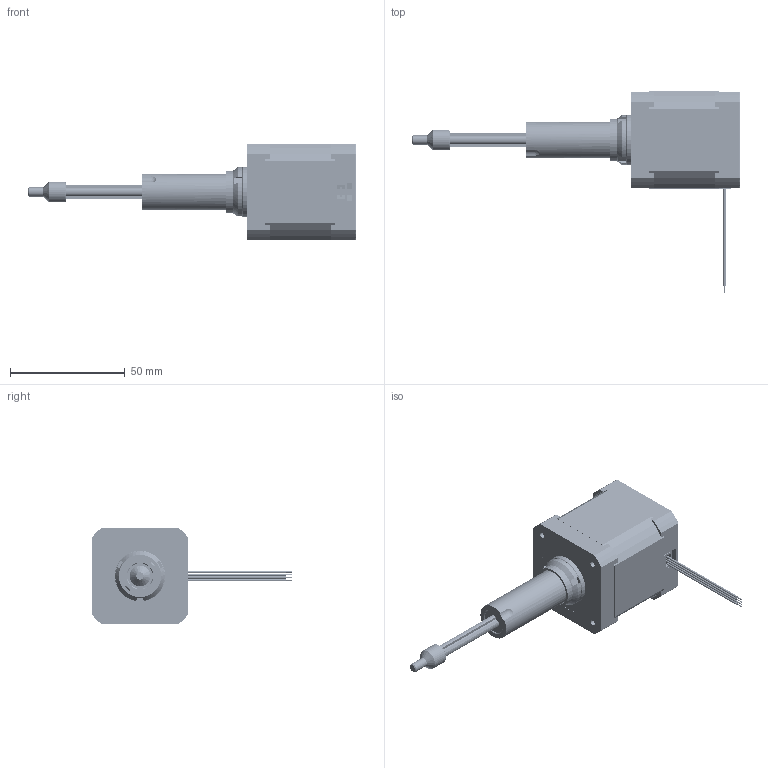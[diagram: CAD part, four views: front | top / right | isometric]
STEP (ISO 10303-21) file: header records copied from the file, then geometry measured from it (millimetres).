
FILE_DESCRIPTION((''),'2;1');
FILE_NAME('42CC4X-X-XXX-XXX_ASM','2023-03-24T',('guangyan.zhou'),(''),'CREO PARAMETRIC BY PTC INC, 2017300','CREO PARAMETRIC BY PTC INC, 2017300','');
FILE_SCHEMA(('CONFIG_CONTROL_DESIGN'));
Products named in the file (150): EB42-1003_AF0; ST42-1003_AF61; ST42-1003_AF62; ST42-1003_AF63; ST42-1003_AF64; ST42-1003_AF65; ST42-1003_AF66; ST42-1003_AF67; ST42-1003_AF68; ST42-1003_AF69; ST42-1003_AF70; ST42-1003_AF71; ST42-1003_AF72; ST42-1003_AF73; ST42-1003_AF74; ST42-1003_AF75; ST42-1003_AF76; ST42-1003_AF77; ST42-1003_AF78; ST42-1003_AF79; ST42-1003_AF80; ST42-1003_AF81; ST42-1003_AF82; ST42-1003_AF83; ST42-1003_AF84; ST42-1003_AF85; ST42-1003_AF86; ST42-1003_AF87; ST42-1003_AF88; ST42-1003_AF89; ST42-1003_AF90; ST42-1003_AF91; ST42-1003_AF92; ST42-1003_AF93; ST42-1003_AF94; ST42-1003_AF95; ST42-1003_AF96; ST42-1003_AF97; ST42-1003_AF98; ST42-1003_AF99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
Assembly tree (151 placements, depth 4):
  42CC4X-X-XXX-XXX_ASM
    EB42-1003_AF0
    ST42-1004_AF0_ASM
      ST42-1005_AF0_ASM
        ST42-1003_AF61
        ST42-1003_AF62
        ST42-1003_AF63
        ST42-1003_AF64
        ST42-1003_AF65
        ST42-1003_AF66
        ST42-1003_AF67
        ST42-1003_AF68
        ST42-1003_AF69
        ST42-1003_AF70
        ST42-1003_AF71
        ST42-1003_AF72
        ST42-1003_AF73
        ST42-1003_AF74
        ST42-1003_AF75
        ST42-1003_AF76
        ST42-1003_AF77
        ST42-1003_AF78
        ST42-1003_AF79
        ST42-1003_AF80
        ST42-1003_AF81
        ST42-1003_AF82
        ST42-1003_AF83
        ST42-1003_AF84
        ST42-1003_AF85
        ST42-1003_AF86
        ST42-1003_AF87
        ST42-1003_AF88
        ST42-1003_AF89
        ST42-1003_AF90
        ST42-1003_AF91
        ST42-1003_AF92
        ST42-1003_AF93
        ST42-1003_AF94
        ST42-1003_AF95
        ST42-1003_AF96
        ST42-1003_AF97
        ST42-1003_AF98
        ST42-1003_AF99
        ST42-1003_AF100
        ST42-1003_AF101
        ST42-1003_AF102
        ST42-1003_AF103
        ST42-1003_AF104
        ST42-1003_AF105
        ST42-1003_AF106
        ST42-1003_AF107
        ST42-1003_AF108
        ST42-1003_AF109
        ST42-1003_AF110
        ST42-1003_AF111
        ST42-1003_AF112
        ST42-1003_AF113
        ST42-1003_AF114
        ST42-1003_AF115
        ST42-1003_AF116
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Bounding box: 142.8 x 87.45 x 42.2 mm (x, y, z)
Volume: 33201.7 mm3; surface area: 85533.1 mm2
Topology: 117 solids, 133 shells, 6687 faces, 19058 edges, 12668 vertices
Faces by surface type: cylinder 3154, plane 2650, extrusion 727, bspline 82, cone 32, torus 32, sphere 10
Entity records: 257894 total; most frequent: CARTESIAN_POINT 74684, ORIENTED_EDGE 38046, DIRECTION 36681, EDGE_CURVE 19052, VERTEX_POINT 12668, AXIS2_PLACEMENT_3D 12594, VECTOR 11493, LINE 10766
